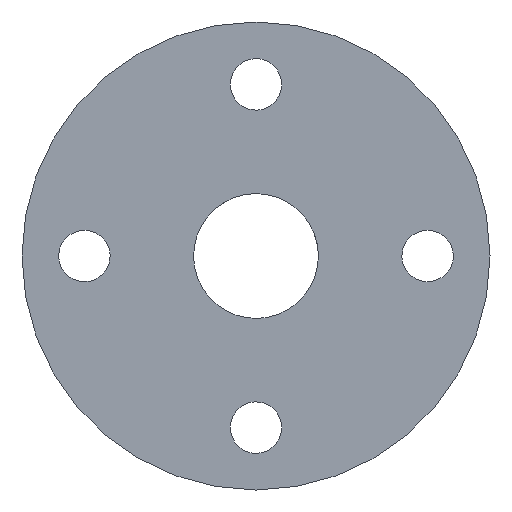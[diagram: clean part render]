
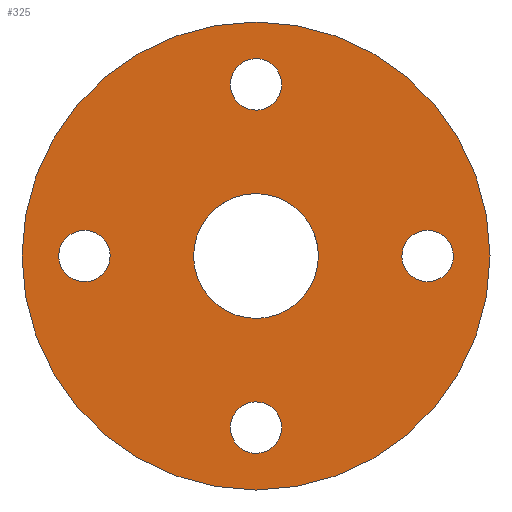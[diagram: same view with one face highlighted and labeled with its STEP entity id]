
A CAD part, left-side view. The second image highlights one B-rep face of the part: STEP entity #325.
In plain terms, the highlighted planar face has unit normal (-1, 0, 0).
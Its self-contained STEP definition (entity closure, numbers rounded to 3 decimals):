
#63=CARTESIAN_POINT('Vertex',(0.,9.552,-0.791)) ;
#83=CARTESIAN_POINT('Vertex',(0.,12.448,0.791)) ;
#87=CARTESIAN_POINT('Control Point',(0.,9.552,-0.791)) ;
#88=CARTESIAN_POINT('Control Point',(0.,9.801,-1.246)) ;
#89=CARTESIAN_POINT('Control Point',(0.,10.228,-1.603)) ;
#90=CARTESIAN_POINT('Control Point',(0.,10.784,-1.766)) ;
#91=CARTESIAN_POINT('Control Point',(0.,11.889,-1.627)) ;
#92=CARTESIAN_POINT('Control Point',(0.,12.603,-0.772)) ;
#93=CARTESIAN_POINT('Control Point',(0.,12.766,-0.216)) ;
#94=CARTESIAN_POINT('Control Point',(0.,12.697,0.336)) ;
#95=CARTESIAN_POINT('Control Point',(0.,12.448,0.791)) ;
#114=CARTESIAN_POINT('Axis2P3D Location',(0.,11.,0.)) ;
#226=CARTESIAN_POINT('Axis2P3D Location',(0.,0.,0.)) ;
#231=CARTESIAN_POINT('Axis2P3D Location',(0.,0.,0.)) ;
#235=CARTESIAN_POINT('Vertex',(0.,-15.,0.)) ;
#237=CARTESIAN_POINT('Vertex',(0.,15.,0.)) ;
#240=CARTESIAN_POINT('Axis2P3D Location',(0.,0.,0.)) ;
#253=CARTESIAN_POINT('Axis2P3D Location',(0.,0.,0.)) ;
#257=CARTESIAN_POINT('Vertex',(0.,-3.51,-1.918)) ;
#259=CARTESIAN_POINT('Vertex',(0.,3.51,1.918)) ;
#262=CARTESIAN_POINT('Axis2P3D Location',(0.,0.,0.)) ;
#271=CARTESIAN_POINT('Axis2P3D Location',(0.,0.,-11.)) ;
#275=CARTESIAN_POINT('Vertex',(0.,0.791,-12.448)) ;
#277=CARTESIAN_POINT('Vertex',(0.,-0.791,-9.552)) ;
#280=CARTESIAN_POINT('Axis2P3D Location',(0.,0.,-11.)) ;
#289=CARTESIAN_POINT('Axis2P3D Location',(0.,-11.,0.)) ;
#293=CARTESIAN_POINT('Vertex',(0.,-12.448,-0.791)) ;
#295=CARTESIAN_POINT('Vertex',(0.,-9.552,0.791)) ;
#298=CARTESIAN_POINT('Axis2P3D Location',(0.,-11.,0.)) ;
#307=CARTESIAN_POINT('Axis2P3D Location',(0.,0.,11.)) ;
#311=CARTESIAN_POINT('Vertex',(0.,-0.791,12.448)) ;
#313=CARTESIAN_POINT('Vertex',(0.,0.791,9.552)) ;
#316=CARTESIAN_POINT('Axis2P3D Location',(0.,0.,11.)) ;
#115=DIRECTION('Axis2P3D Direction',(1.,0.,-0.)) ;
#227=DIRECTION('Axis2P3D Direction',(1.,0.,0.)) ;
#228=DIRECTION('Axis2P3D XDirection',(0.,1.,0.)) ;
#232=DIRECTION('Axis2P3D Direction',(1.,0.,0.)) ;
#241=DIRECTION('Axis2P3D Direction',(1.,0.,0.)) ;
#254=DIRECTION('Axis2P3D Direction',(1.,0.,0.)) ;
#263=DIRECTION('Axis2P3D Direction',(1.,0.,0.)) ;
#272=DIRECTION('Axis2P3D Direction',(1.,0.,0.)) ;
#281=DIRECTION('Axis2P3D Direction',(1.,0.,0.)) ;
#290=DIRECTION('Axis2P3D Direction',(1.,0.,0.)) ;
#299=DIRECTION('Axis2P3D Direction',(1.,0.,0.)) ;
#308=DIRECTION('Axis2P3D Direction',(1.,0.,0.)) ;
#317=DIRECTION('Axis2P3D Direction',(1.,0.,0.)) ;
#116=AXIS2_PLACEMENT_3D('Circle Axis2P3D',#114,#115,$) ;
#229=AXIS2_PLACEMENT_3D('Plane Axis2P3D',#226,#227,#228) ;
#233=AXIS2_PLACEMENT_3D('Circle Axis2P3D',#231,#232,$) ;
#242=AXIS2_PLACEMENT_3D('Circle Axis2P3D',#240,#241,$) ;
#255=AXIS2_PLACEMENT_3D('Circle Axis2P3D',#253,#254,$) ;
#264=AXIS2_PLACEMENT_3D('Circle Axis2P3D',#262,#263,$) ;
#273=AXIS2_PLACEMENT_3D('Circle Axis2P3D',#271,#272,$) ;
#282=AXIS2_PLACEMENT_3D('Circle Axis2P3D',#280,#281,$) ;
#291=AXIS2_PLACEMENT_3D('Circle Axis2P3D',#289,#290,$) ;
#300=AXIS2_PLACEMENT_3D('Circle Axis2P3D',#298,#299,$) ;
#309=AXIS2_PLACEMENT_3D('Circle Axis2P3D',#307,#308,$) ;
#318=AXIS2_PLACEMENT_3D('Circle Axis2P3D',#316,#317,$) ;
#246=ORIENTED_EDGE('',*,*,#239,.F.) ;
#247=ORIENTED_EDGE('',*,*,#244,.F.) ;
#250=ORIENTED_EDGE('',*,*,#96,.T.) ;
#251=ORIENTED_EDGE('',*,*,#118,.T.) ;
#268=ORIENTED_EDGE('',*,*,#261,.T.) ;
#269=ORIENTED_EDGE('',*,*,#266,.T.) ;
#286=ORIENTED_EDGE('',*,*,#279,.T.) ;
#287=ORIENTED_EDGE('',*,*,#284,.T.) ;
#304=ORIENTED_EDGE('',*,*,#297,.T.) ;
#305=ORIENTED_EDGE('',*,*,#302,.T.) ;
#322=ORIENTED_EDGE('',*,*,#315,.T.) ;
#323=ORIENTED_EDGE('',*,*,#320,.T.) ;
#252=FACE_BOUND('',#249,.T.) ;
#270=FACE_BOUND('',#267,.T.) ;
#288=FACE_BOUND('',#285,.T.) ;
#306=FACE_BOUND('',#303,.T.) ;
#324=FACE_BOUND('',#321,.T.) ;
#325=ADVANCED_FACE('TSM8100',(#248,#252,#270,#288,#306,#324),#230,.F.) ;
#86=B_SPLINE_CURVE_WITH_KNOTS('',5,(#87,#88,#89,#90,#91,#92,#93,#94,#95),.UNSPECIFIED.,.F.,.U.,(6,3,6),(-2.592,0.,2.592),.UNSPECIFIED.) ;
#117=CIRCLE('generated circle',#116,1.65) ;
#234=CIRCLE('generated circle',#233,15.) ;
#243=CIRCLE('generated circle',#242,15.) ;
#256=CIRCLE('generated circle',#255,4.) ;
#265=CIRCLE('generated circle',#264,4.) ;
#274=CIRCLE('generated circle',#273,1.65) ;
#283=CIRCLE('generated circle',#282,1.65) ;
#292=CIRCLE('generated circle',#291,1.65) ;
#301=CIRCLE('generated circle',#300,1.65) ;
#310=CIRCLE('generated circle',#309,1.65) ;
#319=CIRCLE('generated circle',#318,1.65) ;
#96=EDGE_CURVE('',#64,#84,#86,.T.) ;
#118=EDGE_CURVE('',#84,#64,#117,.T.) ;
#239=EDGE_CURVE('',#236,#238,#234,.T.) ;
#244=EDGE_CURVE('',#238,#236,#243,.T.) ;
#261=EDGE_CURVE('',#258,#260,#256,.T.) ;
#266=EDGE_CURVE('',#260,#258,#265,.T.) ;
#279=EDGE_CURVE('',#276,#278,#274,.T.) ;
#284=EDGE_CURVE('',#278,#276,#283,.T.) ;
#297=EDGE_CURVE('',#294,#296,#292,.T.) ;
#302=EDGE_CURVE('',#296,#294,#301,.T.) ;
#315=EDGE_CURVE('',#312,#314,#310,.T.) ;
#320=EDGE_CURVE('',#314,#312,#319,.T.) ;
#245=EDGE_LOOP('',(#246,#247)) ;
#249=EDGE_LOOP('',(#250,#251)) ;
#267=EDGE_LOOP('',(#268,#269)) ;
#285=EDGE_LOOP('',(#286,#287)) ;
#303=EDGE_LOOP('',(#304,#305)) ;
#321=EDGE_LOOP('',(#322,#323)) ;
#248=FACE_OUTER_BOUND('',#245,.T.) ;
#230=PLANE('',#229) ;
#64=VERTEX_POINT('',#63) ;
#84=VERTEX_POINT('',#83) ;
#236=VERTEX_POINT('',#235) ;
#238=VERTEX_POINT('',#237) ;
#258=VERTEX_POINT('',#257) ;
#260=VERTEX_POINT('',#259) ;
#276=VERTEX_POINT('',#275) ;
#278=VERTEX_POINT('',#277) ;
#294=VERTEX_POINT('',#293) ;
#296=VERTEX_POINT('',#295) ;
#312=VERTEX_POINT('',#311) ;
#314=VERTEX_POINT('',#313) ;
